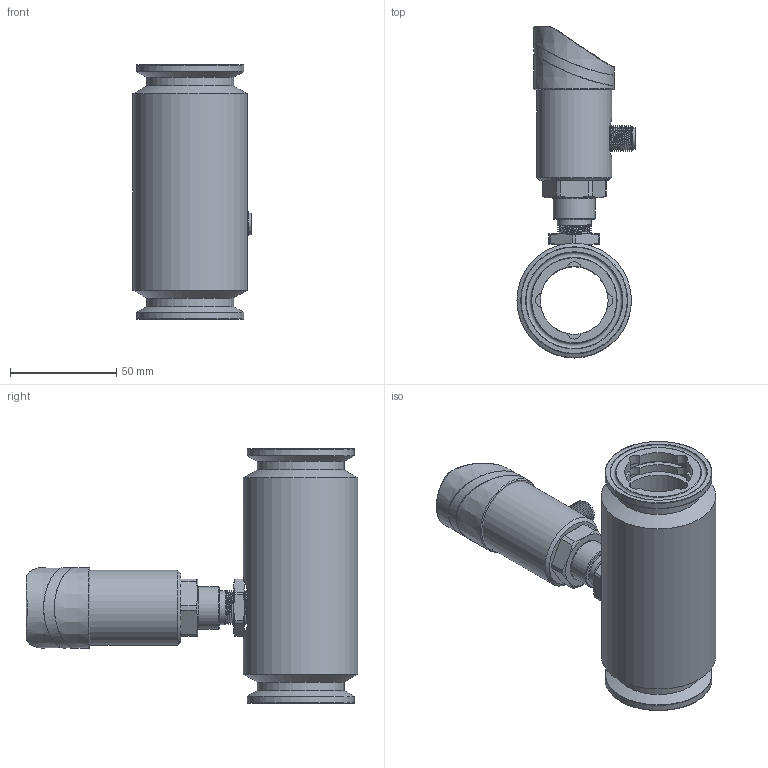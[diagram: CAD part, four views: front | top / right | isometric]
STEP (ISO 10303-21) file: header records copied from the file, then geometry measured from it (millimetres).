
FILE_DESCRIPTION( (''), '2;1');
FILE_NAME( 'QTKE_DN32_tri-clamp.step', '2024-10-15T08:35:03+08:00', (''), (''), '', '', '');
FILE_SCHEMA (('AUTOMOTIVE_DESIGN { 1 0 10303 214 3 1 1 1 }'));
Length unit declared in the file: millimetre
Products named in the file (1): QTKE DN32_tri-clamp
Bounding box: 55.72 x 156.5 x 120 mm (x, y, z)
Volume: 220926.8 mm3; surface area: 65674.9 mm2
Topology: 5 solids, 6 shells, 779 faces, 2010 edges, 1306 vertices
Faces by surface type: plane 285, cylinder 167, extrusion 141, cone 75, bspline 58, torus 42, sphere 11
Full cylindrical faces by diameter (mm): 1.689 x1, 2.7 x3, 12 x1, 15.9 x1, 16.5 x2, 20 x1, 23 x3, 26 x5, 32 x1, 35.5 x1, 36.5 x2, 37.001 x1, 38 x2, 41 x2, 50.5 x2, 54 x1
Entity records: 34189 total; most frequent: CARTESIAN_POINT 14909, ORIENTED_EDGE 3796, DIRECTION 3163, EDGE_CURVE 1898, VERTEX_POINT 1268, AXIS2_PLACEMENT_3D 1090, VECTOR 983, EDGE_LOOP 922
